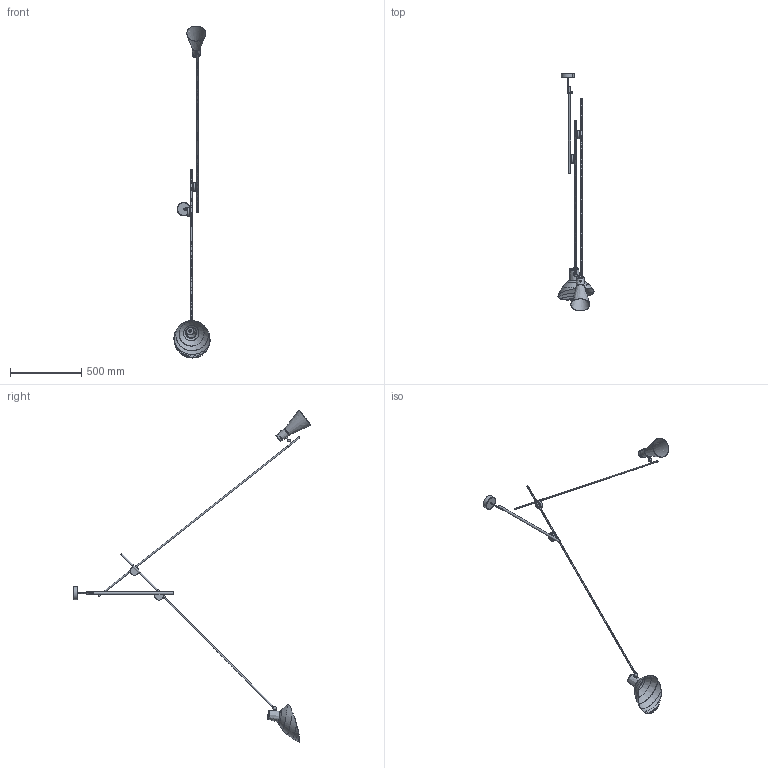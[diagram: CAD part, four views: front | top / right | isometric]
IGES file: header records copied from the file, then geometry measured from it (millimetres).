
Global section: file name: /Users/nicholas/Google Drive/astep/PR & Marketing /CAD Public/VV Cinquanta Suspension/VV Cinquanta Suspension.igs; preprocessor: Trout Lake IGES 012 Jul 15 2015; date: 170609.132858; units: millimetre
Bounding box: 254.16 x 1674.38 x 2336.55 mm (x, y, z)
Surface area: 640463.4 mm2 (no closed solid volume)
Topology: 0 solids, 0 shells, 177 faces, 1187 edges, 1149 vertices
Faces by surface type: bspline 177
